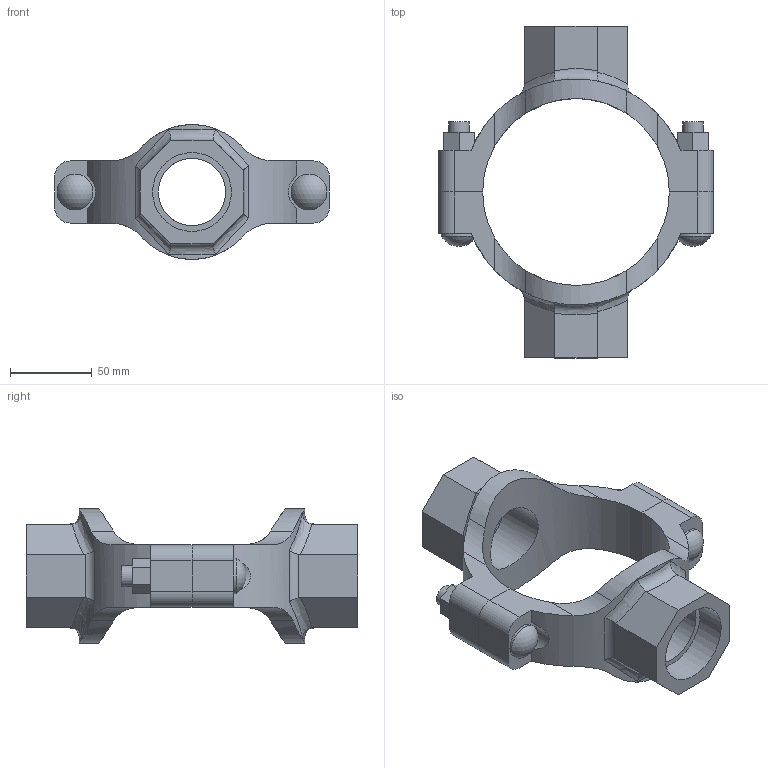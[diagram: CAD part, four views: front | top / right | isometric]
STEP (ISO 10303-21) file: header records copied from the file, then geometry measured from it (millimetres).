
FILE_DESCRIPTION(/* description */ ('VIC MECH-T BRANCH OUTLET CROSS STYLE 920N (THD)','CAx-IF Rec.Pracs.---Representation and Presentation of Product Manufacturing Information (PMI)---4.0---2014-10-13'),/* implementation_level */ '2;1');
FILE_NAME(/* name */ 'C:\Users\Vjadhav\AppData\Roaming\Autodesk\ApplicationPlugins\Back Up\Victaulic_IPS_Mechanical-Cross Outlet_Style 920N (FPT)\Victaulic_IPS_Mechanical-Cross Outlet_04.0x01.5x01.5 (100x40x40).stp',/* time_stamp */ '2020-08-06T18:58:37+05:00',/* author */ ('Vjadhav'),/* organization */ ('Victaulic'),/* preprocessor_version */ 'ST-DEVELOPER v17.2',/* originating_system */ 'Autodesk Inventor 2019',/* authorisation */ '');
FILE_SCHEMA (('AP242_MANAGED_MODEL_BASED_3D_ENGINEERING_MIM_LF { 1 0 10303 442 1 1 4 }'));
Length unit declared in the file: inch
Products named in the file (3): 920NT-04.0x01.5x01.5; 920NT-04.0x01.5; 920NT-04.0x01.5_1
Assembly tree (2 placements, depth 2):
  920NT-04.0x01.5x01.5
    920NT-04.0x01.5
    920NT-04.0x01.5_1
Bounding box: 168.4 x 203.2 x 82.41 mm (x, y, z)
Volume: 394642.4 mm3; surface area: 94276.4 mm2
Topology: 2 solids, 2 shells, 132 faces, 350 edges, 236 vertices
Faces by surface type: plane 68, cylinder 50, bspline 8, torus 4, sphere 2
Full cylindrical faces by diameter (mm): 12.7 x4, 21.982 x2, 41.275 x2, 48.26 x2
Entity records: 5302 total; most frequent: CARTESIAN_POINT 1789, ORIENTED_EDGE 700, DIRECTION 648, EDGE_CURVE 350, VERTEX_POINT 236, AXIS2_PLACEMENT_3D 231, LINE 186, VECTOR 186
